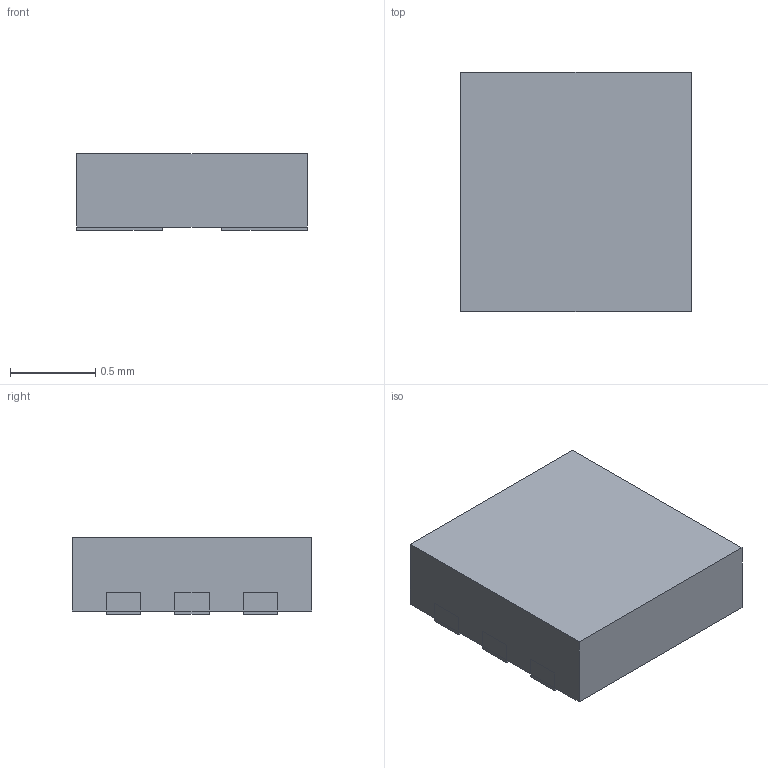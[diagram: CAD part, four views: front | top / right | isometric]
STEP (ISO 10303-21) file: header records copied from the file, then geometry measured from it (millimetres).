
FILE_DESCRIPTION(('Open CASCADE Model'),'2;1');
FILE_NAME('Open CASCADE Shape Model','2026-10-07T16:53:52',('Author'),( 'Open CASCADE'),'Open CASCADE STEP processor 7.8','Open CASCADE 7.8' ,'Unknown');
FILE_SCHEMA(('AUTOMOTIVE_DESIGN { 1 0 10303 214 1 1 1 1 }'));
Length unit declared in the file: millimetre
Products named in the file (1): Open CASCADE STEP translator 7.8 5
Bounding box: 1.35 x 1.4 x 0.45 mm (x, y, z)
Volume: 0.8 mm3; surface area: 6.3 mm2
Topology: 1 solids, 1 shells, 42 faces, 108 edges, 68 vertices
Faces by surface type: plane 42
Entity records: 2614 total; most frequent: CARTESIAN_POINT 471, DIRECTION 374, LINE 288, VECTOR 288, ORIENTED_EDGE 216, PCURVE 216, DEFINITIONAL_REPRESENTATION 216, EDGE_CURVE 108
